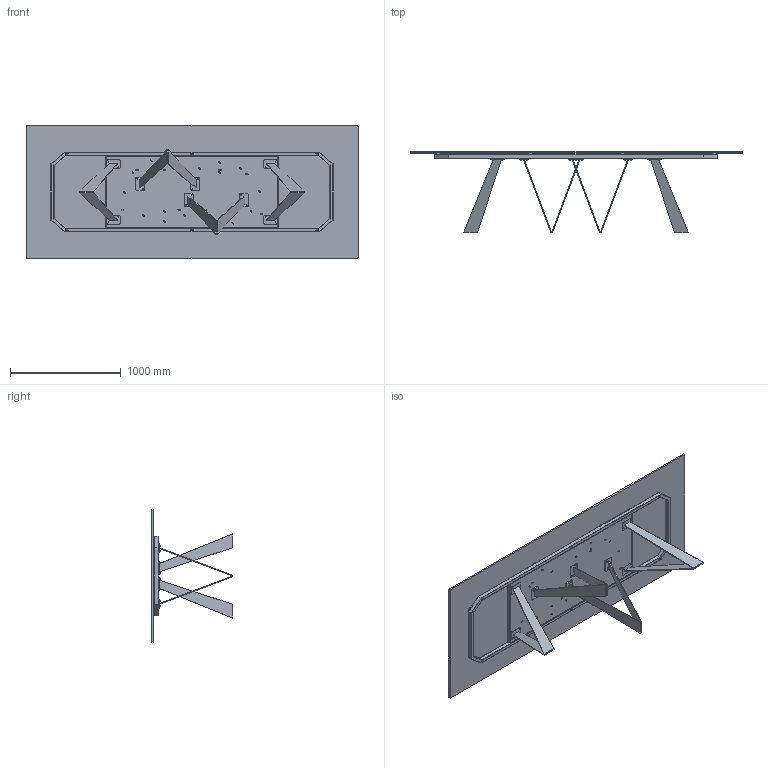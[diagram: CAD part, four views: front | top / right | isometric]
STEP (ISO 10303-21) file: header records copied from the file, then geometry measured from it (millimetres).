
FILE_DESCRIPTION (( 'STEP AP203' ), '1' );
FILE_NAME ('NO24G_Noa_300x120x75h_Glass Rectangular.STEP', '2024-08-07T14:17:26', ( '' ), ( '' ), 'SwSTEP 2.0', 'SolidWorks 2022', '' );
FILE_SCHEMA (( 'CONFIG_CONTROL_DESIGN' ));
Length unit declared in the file: millimetre
Products named in the file (14): 434070-00-PIEDINO TPV GOMMA NERO D. 30x8max18_filo estetico; MAPPA; NOA000001GMB-00-Piastra Principale gamba NOA_Piatto DX; NO24G_Noa_300x120x75h_Glass Rectangular; NOA000001GMB-00-Piastra Principale gamba NOA_Piatto SX; NOA000000-00-NOA BASE GREZZA; Assieme NOA var 3_noa 300-320; TTAV07-04-TELAIO X TAVOLI PLAI ONDA NOA 300; 434070-00-PIEDINO TPV GOMMA NERO D. 30x8max18; M8xXXmm_M8x20mm; NOA000001PTRS-00-Piastra rettangoalre con fori; TTAV07_02-01-VASSOIO TELAIO  PLAI ONDA NOA 300; TTAV07_01-04-STRUTTURA TAVOLI PLAI ONDA NOA 300; C2XCRXX-00-Piani Rettangolari Cristallo_24 3000x1200
Assembly tree (37 placements, depth 4):
  MAPPA
  NO24G_Noa_300x120x75h_Glass Rectangular
    C2XCRXX-00-Piani Rettangolari Cristallo_24 3000x1200
    Assieme NOA var 3_noa 300-320
      NOA000000-00-NOA BASE GREZZA  x4
        NOA000001GMB-00-Piastra Principale gamba NOA_Piatto SX
        NOA000001GMB-00-Piastra Principale gamba NOA_Piatto DX
        NOA000001PTRS-00-Piastra rettangoalre con fori
      TTAV07-04-TELAIO X TAVOLI PLAI ONDA NOA 300
        TTAV07_01-04-STRUTTURA TAVOLI PLAI ONDA NOA 300
        TTAV07_02-01-VASSOIO TELAIO  PLAI ONDA NOA 300
    M8xXXmm_M8x20mm  x16
    434070-00-PIEDINO TPV GOMMA NERO D. 30x8max18  x7
    434070-00-PIEDINO TPV GOMMA NERO D. 30x8max18_filo estetico
Bounding box: 3000 x 734.8 x 1200 mm (x, y, z)
Volume: 65262950.7 mm3; surface area: 12747561.5 mm2
Topology: 51 solids, 51 shells, 1164 faces, 2724 edges, 1640 vertices
Faces by surface type: plane 520, cylinder 356, cone 176, torus 96, sphere 16
Entity records: 16588 total; most frequent: DIRECTION 2605, CARTESIAN_POINT 2563, ORIENTED_EDGE 2380, EDGE_CURVE 1190, AXIS2_PLACEMENT_3D 944, VERTEX_POINT 752, VECTOR 717, LINE 717
